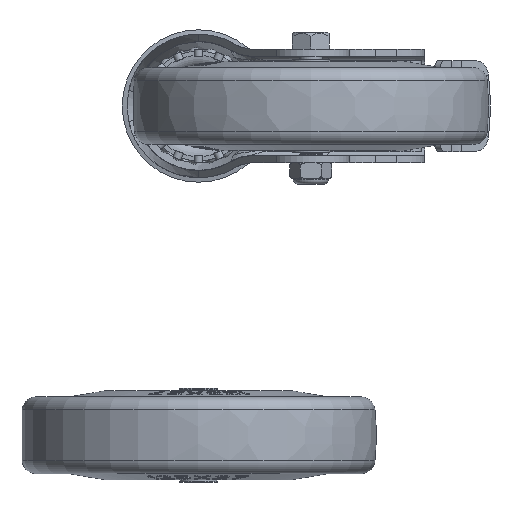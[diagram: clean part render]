
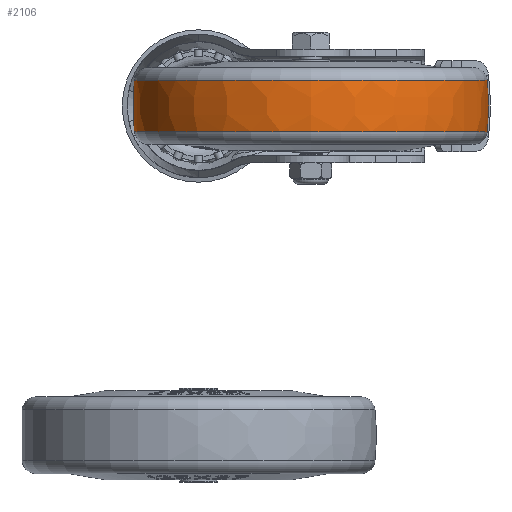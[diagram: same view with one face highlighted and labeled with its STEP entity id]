
A CAD part, front view. The second image highlights one B-rep face of the part: STEP entity #2106.
In plain terms, the highlighted free-form (B-spline) face has degree [3, 3] with [4, 7] control points.
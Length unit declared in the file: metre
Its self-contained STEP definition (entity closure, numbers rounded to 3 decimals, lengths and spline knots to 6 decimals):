
#2106=ADVANCED_FACE('',(#5336,#5337),#5338,.T.);
#5336=FACE_OUTER_BOUND('',#12241,.T.);
#5337=FACE_OUTER_BOUND('',#12242,.T.);
#5338=(B_SPLINE_SURFACE(3,3,((#12244,#12245,#12246,#12247,#12248,#12249,#12250),(#12251,#12252,#12253,#12254,#12255,#12256,#12257),(#12258,#12259,#12260,#12261,#12262,#12263,#12264),(#12265,#12266,#12267,#12268,#12269,#12270,#12271)),.UNSPECIFIED.,.F.,.T.,.F.)B_SPLINE_SURFACE_WITH_KNOTS((4,4),(4,3,4),(0.0,6.283185),(-0.098282,0.,0.098282),.UNSPECIFIED.)RATIONAL_B_SPLINE_SURFACE(((1.0,0.333,0.333,1.0,0.333,0.333,1.0),(0.997,0.332,0.332,0.997,0.332,0.332,0.997),(0.997,0.332,0.332,0.997,0.332,0.332,0.997),(1.0,0.333,0.333,1.0,0.333,0.333,1.0)))BOUNDED_SURFACE()REPRESENTATION_ITEM('')GEOMETRIC_REPRESENTATION_ITEM()SURFACE());
#12241=EDGE_LOOP('',(#25620));
#12242=EDGE_LOOP('',(#25621));
#12244=CARTESIAN_POINT('',(0.008991,0.,-0.062058));
#12245=CARTESIAN_POINT('',(0.008991,0.124116,-0.062058));
#12246=CARTESIAN_POINT('',(0.008991,0.124116,0.062058));
#12247=CARTESIAN_POINT('',(0.008991,0.,0.062058));
#12248=CARTESIAN_POINT('',(0.008991,-0.124116,0.062058));
#12249=CARTESIAN_POINT('',(0.008991,-0.124116,-0.062058));
#12250=CARTESIAN_POINT('',(0.008991,0.,-0.062058));
#12251=CARTESIAN_POINT('',(0.003007,0.,-0.062648));
#12252=CARTESIAN_POINT('',(0.003007,0.125296,-0.062648));
#12253=CARTESIAN_POINT('',(0.003007,0.125296,0.062648));
#12254=CARTESIAN_POINT('',(0.003007,0.,0.062648));
#12255=CARTESIAN_POINT('',(0.003007,-0.125296,0.062648));
#12256=CARTESIAN_POINT('',(0.003007,-0.125296,-0.062648));
#12257=CARTESIAN_POINT('',(0.003007,0.,-0.062648));
#12258=CARTESIAN_POINT('',(-0.003007,0.,-0.062648));
#12259=CARTESIAN_POINT('',(-0.003007,0.125296,-0.062648));
#12260=CARTESIAN_POINT('',(-0.003007,0.125296,0.062648));
#12261=CARTESIAN_POINT('',(-0.003007,0.,0.062648));
#12262=CARTESIAN_POINT('',(-0.003007,-0.125296,0.062648));
#12263=CARTESIAN_POINT('',(-0.003007,-0.125296,-0.062648));
#12264=CARTESIAN_POINT('',(-0.003007,0.,-0.062648));
#12265=CARTESIAN_POINT('',(-0.008991,0.,-0.062058));
#12266=CARTESIAN_POINT('',(-0.008991,0.124116,-0.062058));
#12267=CARTESIAN_POINT('',(-0.008991,0.124116,0.062058));
#12268=CARTESIAN_POINT('',(-0.008991,0.,0.062058));
#12269=CARTESIAN_POINT('',(-0.008991,-0.124116,0.062058));
#12270=CARTESIAN_POINT('',(-0.008991,-0.124116,-0.062058));
#12271=CARTESIAN_POINT('',(-0.008991,0.,-0.062058));
#25620=ORIENTED_EDGE('',*,*,#32969,.T.);
#25621=ORIENTED_EDGE('',*,*,#32970,.F.);
#32969=EDGE_CURVE('',#40299,#40299,#40300,.T.);
#32970=EDGE_CURVE('',#40301,#40301,#40302,.T.);
#40299=VERTEX_POINT('',#57346);
#40300=CIRCLE('',#57347,0.062058);
#40301=VERTEX_POINT('',#57348);
#40302=CIRCLE('',#57349,0.062058);
#57346=CARTESIAN_POINT('',(0.008991,0.0,0.062058));
#57347=AXIS2_PLACEMENT_3D('',#67036,#67037,#67038);
#57348=CARTESIAN_POINT('',(-0.008991,0.0,0.062058));
#57349=AXIS2_PLACEMENT_3D('',#67039,#67040,#67041);
#67036=CARTESIAN_POINT('',(0.008991,0.0,0.0));
#67037=DIRECTION('',(-1.0,0.0,0.0));
#67038=DIRECTION('',(0.0,0.0,1.0));
#67039=CARTESIAN_POINT('',(-0.008991,0.0,0.0));
#67040=DIRECTION('',(-1.0,0.0,0.0));
#67041=DIRECTION('',(0.0,0.0,1.0));
